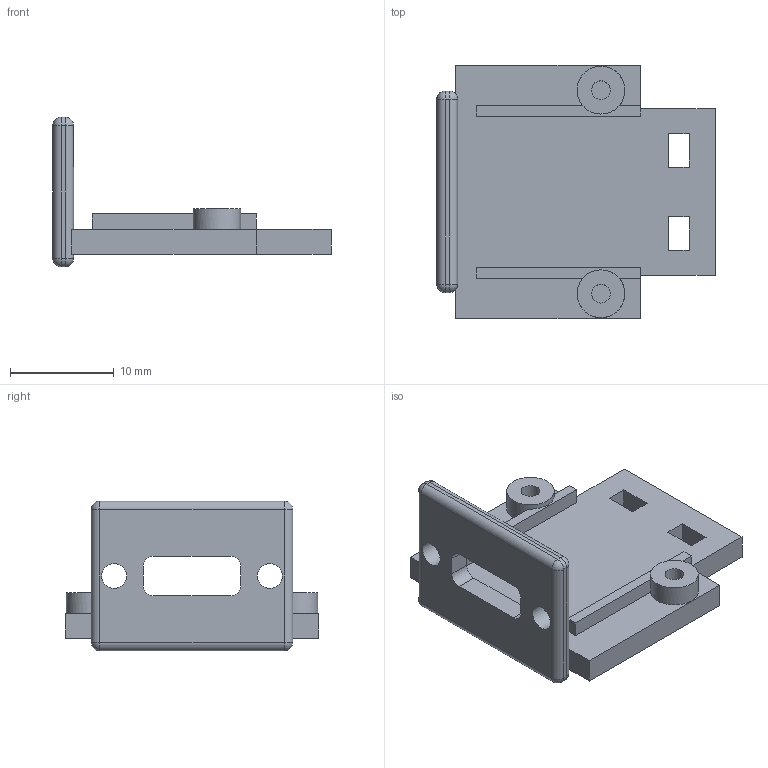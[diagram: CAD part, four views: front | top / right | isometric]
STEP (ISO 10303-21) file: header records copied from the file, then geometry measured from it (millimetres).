
FILE_DESCRIPTION(('Open CASCADE Model'),'2;1');
FILE_NAME('Open CASCADE Shape Model','2026-10-20T15:14:22',('Author'),( 'Open CASCADE'),'Open CASCADE STEP processor 7.8','Open CASCADE 7.8' ,'Unknown');
FILE_SCHEMA(('AUTOMOTIVE_DESIGN { 1 0 10303 214 1 1 1 1 }'));
Length unit declared in the file: millimetre
Products named in the file (1): Open CASCADE STEP translator 7.8 12
Bounding box: 26.8 x 24.4 x 14.4 mm (x, y, z)
Volume: 1817.8 mm3; surface area: 2081.8 mm2
Topology: 1 solids, 1 shells, 74 faces, 194 edges, 116 vertices
Faces by surface type: plane 44, cylinder 22, sphere 8
Full cylindrical faces by diameter (mm): 1.8 x2, 2.4 x2, 4.6 x2
Entity records: 4578 total; most frequent: CARTESIAN_POINT 881, DIRECTION 668, LINE 394, VECTOR 394, ORIENTED_EDGE 372, PCURVE 372, DEFINITIONAL_REPRESENTATION 372, EDGE_CURVE 186
